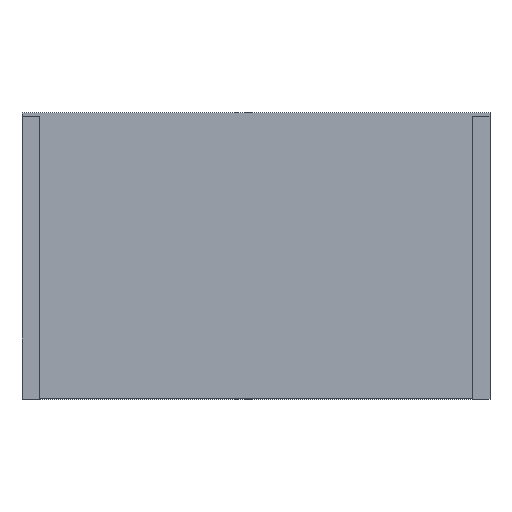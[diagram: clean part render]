
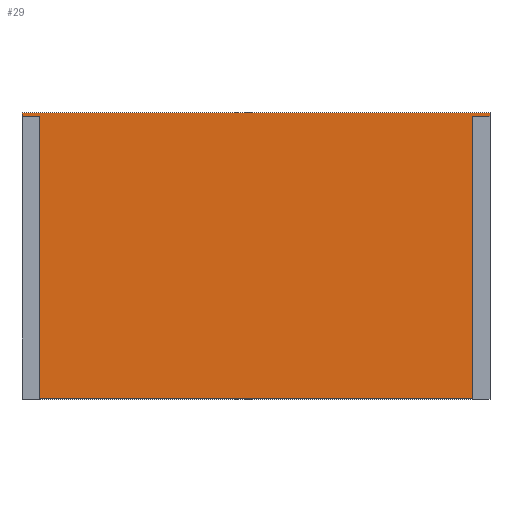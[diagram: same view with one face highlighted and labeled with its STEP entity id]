
A CAD part, top view. The second image highlights one B-rep face of the part: STEP entity #29.
In plain terms, the highlighted planar face has unit normal (0, 0, 1).
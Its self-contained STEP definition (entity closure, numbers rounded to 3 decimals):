
#29=ADVANCED_FACE('',(#41),#415,.T.);
#41=FACE_OUTER_BOUND('',#53,.T.);
#53=EDGE_LOOP('',(#88,#89,#90,#91,#92,#93,#94,#95));
#88=ORIENTED_EDGE('',*,*,#290,.T.);
#89=ORIENTED_EDGE('',*,*,#282,.F.);
#90=ORIENTED_EDGE('',*,*,#285,.F.);
#91=ORIENTED_EDGE('',*,*,#287,.F.);
#92=ORIENTED_EDGE('',*,*,#291,.T.);
#93=ORIENTED_EDGE('',*,*,#292,.T.);
#94=ORIENTED_EDGE('',*,*,#272,.F.);
#95=ORIENTED_EDGE('',*,*,#293,.T.);
#122=PCURVE('',#410,#182);
#133=PCURVE('',#411,#193);
#136=PCURVE('',#412,#196);
#139=PCURVE('',#413,#199);
#148=PCURVE('',#415,#208);
#149=PCURVE('',#415,#209);
#150=PCURVE('',#415,#210);
#151=PCURVE('',#415,#211);
#152=PCURVE('',#415,#212);
#153=PCURVE('',#415,#213);
#154=PCURVE('',#415,#214);
#155=PCURVE('',#415,#215);
#162=PCURVE('',#417,#222);
#165=PCURVE('',#418,#225);
#172=PCURVE('',#420,#232);
#178=PCURVE('',#421,#238);
#182=DEFINITIONAL_REPRESENTATION('',(#305),#689);
#193=DEFINITIONAL_REPRESENTATION('',(#326),#689);
#196=DEFINITIONAL_REPRESENTATION('',(#332),#689);
#199=DEFINITIONAL_REPRESENTATION('',(#337),#689);
#208=DEFINITIONAL_REPRESENTATION('',(#349),#689);
#209=DEFINITIONAL_REPRESENTATION('',(#350),#689);
#210=DEFINITIONAL_REPRESENTATION('',(#351),#689);
#211=DEFINITIONAL_REPRESENTATION('',(#352),#689);
#212=DEFINITIONAL_REPRESENTATION('',(#354),#689);
#213=DEFINITIONAL_REPRESENTATION('',(#356),#689);
#214=DEFINITIONAL_REPRESENTATION('',(#357),#689);
#215=DEFINITIONAL_REPRESENTATION('',(#359),#689);
#222=DEFINITIONAL_REPRESENTATION('',(#369),#689);
#225=DEFINITIONAL_REPRESENTATION('',(#372),#689);
#232=DEFINITIONAL_REPRESENTATION('',(#381),#689);
#238=DEFINITIONAL_REPRESENTATION('',(#388),#689);
#242=SURFACE_CURVE('',#304,(#122,#154),.PCURVE_S1.);
#252=SURFACE_CURVE('',#325,(#133,#149),.PCURVE_S1.);
#255=SURFACE_CURVE('',#331,(#136,#150),.PCURVE_S1.);
#257=SURFACE_CURVE('',#336,(#139,#151),.PCURVE_S1.);
#260=SURFACE_CURVE('',#348,(#148,#172),.PCURVE_S1.);
#261=SURFACE_CURVE('',#353,(#152,#162),.PCURVE_S1.);
#262=SURFACE_CURVE('',#355,(#153,#165),.PCURVE_S1.);
#263=SURFACE_CURVE('',#358,(#155,#178),.PCURVE_S1.);
#272=EDGE_CURVE('',#406,#399,#242,.T.);
#282=EDGE_CURVE('',#393,#408,#252,.T.);
#285=EDGE_CURVE('',#395,#393,#255,.T.);
#287=EDGE_CURVE('',#401,#395,#257,.T.);
#290=EDGE_CURVE('',#409,#408,#260,.T.);
#291=EDGE_CURVE('',#401,#402,#261,.T.);
#292=EDGE_CURVE('',#402,#399,#262,.T.);
#293=EDGE_CURVE('',#406,#409,#263,.T.);
#304=B_SPLINE_CURVE_WITH_KNOTS('',1,(#512,#513),.UNSPECIFIED.,.F.,.F.,(2,
2),(-260.,-10.),.UNSPECIFIED.);
#305=B_SPLINE_CURVE_WITH_KNOTS('',1,(#514,#515),.UNSPECIFIED.,.F.,.F.,(2,
2),(-260.,-10.),.UNSPECIFIED.);
#325=B_SPLINE_CURVE_WITH_KNOTS('',1,(#556,#557),.UNSPECIFIED.,.F.,.F.,(2,
2),(-435.,-433.),.UNSPECIFIED.);
#326=B_SPLINE_CURVE_WITH_KNOTS('',1,(#558,#559),.UNSPECIFIED.,.F.,.F.,(2,
2),(-435.,-433.),.UNSPECIFIED.);
#331=B_SPLINE_CURVE_WITH_KNOTS('',1,(#568,#569),.UNSPECIFIED.,.F.,.F.,(2,
2),(-705.,-435.),.UNSPECIFIED.);
#332=B_SPLINE_CURVE_WITH_KNOTS('',1,(#570,#571),.UNSPECIFIED.,.F.,.F.,(2,
2),(-705.,-435.),.UNSPECIFIED.);
#336=B_SPLINE_CURVE_WITH_KNOTS('',1,(#578,#579),.UNSPECIFIED.,.F.,.F.,(2,
2),(-707.,-705.),.UNSPECIFIED.);
#337=B_SPLINE_CURVE_WITH_KNOTS('',1,(#580,#581),.UNSPECIFIED.,.F.,.F.,(2,
2),(-707.,-705.),.UNSPECIFIED.);
#348=B_SPLINE_CURVE_WITH_KNOTS('',1,(#602,#603),.UNSPECIFIED.,.F.,.F.,(2,
2),(0.,10.),.UNSPECIFIED.);
#349=B_SPLINE_CURVE_WITH_KNOTS('',1,(#604,#605),.UNSPECIFIED.,.F.,.F.,(2,
2),(0.,10.),.UNSPECIFIED.);
#350=B_SPLINE_CURVE_WITH_KNOTS('',1,(#606,#607),.UNSPECIFIED.,.F.,.F.,(2,
2),(-435.,-433.),.UNSPECIFIED.);
#351=B_SPLINE_CURVE_WITH_KNOTS('',1,(#608,#609),.UNSPECIFIED.,.F.,.F.,(2,
2),(-705.,-435.),.UNSPECIFIED.);
#352=B_SPLINE_CURVE_WITH_KNOTS('',1,(#610,#611),.UNSPECIFIED.,.F.,.F.,(2,
2),(-707.,-705.),.UNSPECIFIED.);
#353=B_SPLINE_CURVE_WITH_KNOTS('',1,(#612,#613),.UNSPECIFIED.,.F.,.F.,(2,
2),(90.,100.),.UNSPECIFIED.);
#354=B_SPLINE_CURVE_WITH_KNOTS('',1,(#614,#615),.UNSPECIFIED.,.F.,.F.,(2,
2),(90.,100.),.UNSPECIFIED.);
#355=B_SPLINE_CURVE_WITH_KNOTS('',1,(#616,#617),.UNSPECIFIED.,.F.,.F.,(2,
2),(241.,404.),.UNSPECIFIED.);
#356=B_SPLINE_CURVE_WITH_KNOTS('',1,(#618,#619),.UNSPECIFIED.,.F.,.F.,(2,
2),(241.,404.),.UNSPECIFIED.);
#357=B_SPLINE_CURVE_WITH_KNOTS('',1,(#620,#621),.UNSPECIFIED.,.F.,.F.,(2,
2),(-260.,-10.),.UNSPECIFIED.);
#358=B_SPLINE_CURVE_WITH_KNOTS('',1,(#622,#623),.UNSPECIFIED.,.F.,.F.,(2,
2),(-404.,-241.),.UNSPECIFIED.);
#359=B_SPLINE_CURVE_WITH_KNOTS('',1,(#624,#625),.UNSPECIFIED.,.F.,.F.,(2,
2),(-404.,-241.),.UNSPECIFIED.);
#369=B_SPLINE_CURVE_WITH_KNOTS('',1,(#646,#647),.UNSPECIFIED.,.F.,.F.,(2,
2),(90.,100.),.UNSPECIFIED.);
#372=B_SPLINE_CURVE_WITH_KNOTS('',1,(#652,#653),.UNSPECIFIED.,.F.,.F.,(2,
2),(241.,404.),.UNSPECIFIED.);
#381=B_SPLINE_CURVE_WITH_KNOTS('',1,(#670,#671),.UNSPECIFIED.,.F.,.F.,(2,
2),(0.,10.),.UNSPECIFIED.);
#388=B_SPLINE_CURVE_WITH_KNOTS('',1,(#684,#685),.UNSPECIFIED.,.F.,.F.,(2,
2),(-404.,-241.),.UNSPECIFIED.);
#393=VERTEX_POINT('',#487);
#395=VERTEX_POINT('',#489);
#399=VERTEX_POINT('',#493);
#401=VERTEX_POINT('',#495);
#402=VERTEX_POINT('',#496);
#406=VERTEX_POINT('',#500);
#408=VERTEX_POINT('',#502);
#409=VERTEX_POINT('',#503);
#410=PLANE('',#442);
#411=PLANE('',#443);
#412=PLANE('',#444);
#413=PLANE('',#445);
#415=PLANE('',#447);
#417=PLANE('',#449);
#418=PLANE('',#450);
#420=PLANE('',#452);
#421=PLANE('',#453);
#442=AXIS2_PLACEMENT_3D('',#472,#457,$);
#443=AXIS2_PLACEMENT_3D('',#473,#458,$);
#444=AXIS2_PLACEMENT_3D('',#474,#459,$);
#445=AXIS2_PLACEMENT_3D('',#475,#460,$);
#447=AXIS2_PLACEMENT_3D('',#477,#462,$);
#449=AXIS2_PLACEMENT_3D('',#479,#464,$);
#450=AXIS2_PLACEMENT_3D('',#480,#465,$);
#452=AXIS2_PLACEMENT_3D('',#482,#467,$);
#453=AXIS2_PLACEMENT_3D('',#483,#468,$);
#457=DIRECTION('',(0.,-1.,0.));
#458=DIRECTION('',(1.,0.,0.));
#459=DIRECTION('',(0.,1.,0.));
#460=DIRECTION('',(-1.,0.,0.));
#462=DIRECTION('',(0.,0.,1.));
#464=DIRECTION('',(0.,-1.,0.));
#465=DIRECTION('',(-1.,0.,0.));
#467=DIRECTION('',(0.,-1.,0.));
#468=DIRECTION('',(1.,0.,0.));
#472=CARTESIAN_POINT('',(-390.,380.,-160.));
#473=CARTESIAN_POINT('',(-120.,380.,-160.));
#474=CARTESIAN_POINT('',(-120.,545.,-160.));
#475=CARTESIAN_POINT('',(-390.,545.,-160.));
#477=CARTESIAN_POINT('',(-390.,380.,-80.));
#479=CARTESIAN_POINT('',(-480.,543.,-158.));
#480=CARTESIAN_POINT('',(-380.,380.,-158.));
#482=CARTESIAN_POINT('',(-130.,543.,-158.));
#483=CARTESIAN_POINT('',(-130.,380.,-158.));
#487=CARTESIAN_POINT('',(-120.,545.,-80.));
#489=CARTESIAN_POINT('',(-390.,545.,-80.));
#493=CARTESIAN_POINT('',(-380.,380.,-80.));
#495=CARTESIAN_POINT('',(-390.,543.,-80.));
#496=CARTESIAN_POINT('',(-380.,543.,-80.));
#500=CARTESIAN_POINT('',(-130.,380.,-80.));
#502=CARTESIAN_POINT('',(-120.,543.,-80.));
#503=CARTESIAN_POINT('',(-130.,543.,-80.));
#512=CARTESIAN_POINT('',(-130.,380.,-80.));
#513=CARTESIAN_POINT('',(-380.,380.,-80.));
#514=CARTESIAN_POINT('',(260.,80.));
#515=CARTESIAN_POINT('',(10.,80.));
#556=CARTESIAN_POINT('',(-120.,545.,-80.));
#557=CARTESIAN_POINT('',(-120.,543.,-80.));
#558=CARTESIAN_POINT('',(435.,80.));
#559=CARTESIAN_POINT('',(433.,80.));
#568=CARTESIAN_POINT('',(-390.,545.,-80.));
#569=CARTESIAN_POINT('',(-120.,545.,-80.));
#570=CARTESIAN_POINT('',(705.,80.));
#571=CARTESIAN_POINT('',(435.,80.));
#578=CARTESIAN_POINT('',(-390.,543.,-80.));
#579=CARTESIAN_POINT('',(-390.,545.,-80.));
#580=CARTESIAN_POINT('',(707.,80.));
#581=CARTESIAN_POINT('',(705.,80.));
#602=CARTESIAN_POINT('',(-130.,543.,-80.));
#603=CARTESIAN_POINT('',(-120.,543.,-80.));
#604=CARTESIAN_POINT('',(260.,163.));
#605=CARTESIAN_POINT('',(270.,163.));
#606=CARTESIAN_POINT('',(270.,165.));
#607=CARTESIAN_POINT('',(270.,163.));
#608=CARTESIAN_POINT('',(0.,165.));
#609=CARTESIAN_POINT('',(270.,165.));
#610=CARTESIAN_POINT('',(0.,163.));
#611=CARTESIAN_POINT('',(0.,165.));
#612=CARTESIAN_POINT('',(-390.,543.,-80.));
#613=CARTESIAN_POINT('',(-380.,543.,-80.));
#614=CARTESIAN_POINT('',(0.,163.));
#615=CARTESIAN_POINT('',(10.,163.));
#616=CARTESIAN_POINT('',(-380.,543.,-80.));
#617=CARTESIAN_POINT('',(-380.,380.,-80.));
#618=CARTESIAN_POINT('',(10.,163.));
#619=CARTESIAN_POINT('',(10.,0.));
#620=CARTESIAN_POINT('',(260.,0.));
#621=CARTESIAN_POINT('',(10.,0.));
#622=CARTESIAN_POINT('',(-130.,380.,-80.));
#623=CARTESIAN_POINT('',(-130.,543.,-80.));
#624=CARTESIAN_POINT('',(260.,0.));
#625=CARTESIAN_POINT('',(260.,163.));
#646=CARTESIAN_POINT('',(90.,241.));
#647=CARTESIAN_POINT('',(100.,241.));
#652=CARTESIAN_POINT('',(78.,163.));
#653=CARTESIAN_POINT('',(78.,0.));
#670=CARTESIAN_POINT('',(0.,241.));
#671=CARTESIAN_POINT('',(10.,241.));
#684=CARTESIAN_POINT('',(0.,78.));
#685=CARTESIAN_POINT('',(163.,78.));
#689=(
GEOMETRIC_REPRESENTATION_CONTEXT(2)
PARAMETRIC_REPRESENTATION_CONTEXT()
REPRESENTATION_CONTEXT('pspace','')
);
